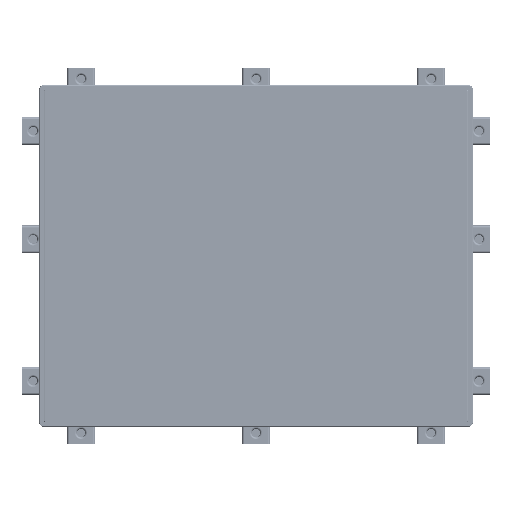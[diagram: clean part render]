
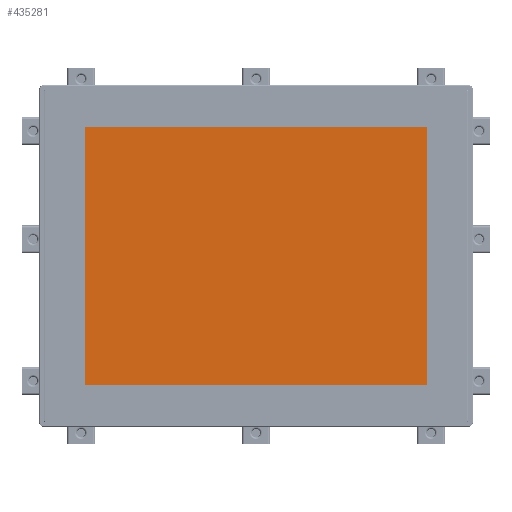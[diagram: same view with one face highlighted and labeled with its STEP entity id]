
A CAD part, top view. The second image highlights one B-rep face of the part: STEP entity #435281.
In plain terms, the highlighted planar face has unit normal (0, 0, 1).
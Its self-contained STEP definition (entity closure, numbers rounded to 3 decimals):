
#13843=DIRECTION('',(0.,-1.,0.));
#13844=VECTOR('',#13843,185.3);
#13845=CARTESIAN_POINT('',(-123.25,92.65,3.21));
#13846=LINE('',#13845,#13844);
#13847=DIRECTION('',(1.,0.,0.));
#13848=VECTOR('',#13847,246.5);
#13849=CARTESIAN_POINT('',(-123.25,92.65,3.21));
#13850=LINE('',#13849,#13848);
#13859=DIRECTION('',(0.,-1.,0.));
#13860=VECTOR('',#13859,185.3);
#13861=CARTESIAN_POINT('',(123.25,92.65,3.21));
#13862=LINE('',#13861,#13860);
#13871=DIRECTION('',(-1.,0.,0.));
#13872=VECTOR('',#13871,246.5);
#13873=CARTESIAN_POINT('',(123.25,-92.65,3.21));
#13874=LINE('',#13873,#13872);
#319805=CARTESIAN_POINT('',(-123.25,-92.65,3.21));
#319806=VERTEX_POINT('',#319805);
#319807=CARTESIAN_POINT('',(-123.25,92.65,3.21));
#319808=VERTEX_POINT('',#319807);
#319809=CARTESIAN_POINT('',(123.25,92.65,3.21));
#319810=VERTEX_POINT('',#319809);
#319811=CARTESIAN_POINT('',(123.25,-92.65,3.21));
#319812=VERTEX_POINT('',#319811);
#435267=CARTESIAN_POINT('',(0.,0.,3.21));
#435268=DIRECTION('',(0.,0.,1.));
#435269=DIRECTION('',(1.,0.,0.));
#435270=AXIS2_PLACEMENT_3D('',#435267,#435268,#435269);
#435271=PLANE('',#435270);
#435272=ORIENTED_EDGE('',*,*,#435250,.F.);
#435274=ORIENTED_EDGE('',*,*,#435273,.T.);
#435276=ORIENTED_EDGE('',*,*,#435275,.T.);
#435278=ORIENTED_EDGE('',*,*,#435277,.T.);
#435279=EDGE_LOOP('',(#435272,#435274,#435276,#435278));
#435280=FACE_OUTER_BOUND('',#435279,.F.);
#435281=ADVANCED_FACE('',(#435280),#435271,.T.);
#435250=EDGE_CURVE('',#319808,#319806,#13846,.T.);
#435273=EDGE_CURVE('',#319808,#319810,#13850,.T.);
#435275=EDGE_CURVE('',#319810,#319812,#13862,.T.);
#435277=EDGE_CURVE('',#319812,#319806,#13874,.T.);
